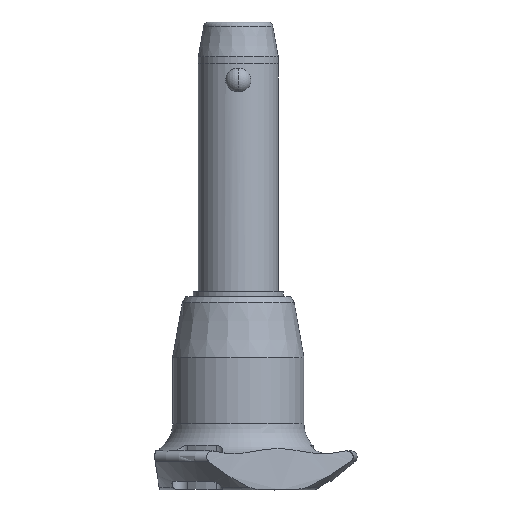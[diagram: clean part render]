
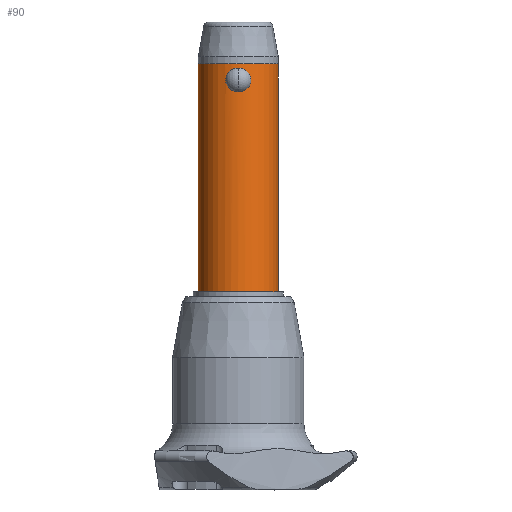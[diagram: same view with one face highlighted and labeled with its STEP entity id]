
A CAD part, front view. The second image highlights one B-rep face of the part: STEP entity #90.
In plain terms, the highlighted cylindrical face has radius 8 mm (diameter 16 mm), a partial arc.
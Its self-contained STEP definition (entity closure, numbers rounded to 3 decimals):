
#2 = CARTESIAN_POINT ( 'NONE',  ( -8., 0., -40. ) ) ;
#26 = VERTEX_POINT ( 'NONE', #342 ) ;
#75 = CARTESIAN_POINT ( 'NONE',  ( -8., 0., 5.6 ) ) ;
#90 = ADVANCED_FACE ( 'NONE', ( #1492, #1956 ), #115, .T. ) ;
#96 = CARTESIAN_POINT ( 'NONE',  ( 2.408, -7.629, 1.586 ) ) ;
#115 = CYLINDRICAL_SURFACE ( 'NONE', #312, 8. ) ;
#123 = CARTESIAN_POINT ( 'NONE',  ( 0., -8., 0. ) ) ;
#130 = DIRECTION ( 'NONE',  ( 1., 0., 0. ) ) ;
#134 = CARTESIAN_POINT ( 'NONE',  ( 2.41, -7.629, 3.184 ) ) ;
#148 = CARTESIAN_POINT ( 'NONE',  ( 2.528, -7.59, 2.058 ) ) ;
#150 = DIRECTION ( 'NONE',  ( 0., 0., 1. ) ) ;
#181 = CARTESIAN_POINT ( 'NONE',  ( -2.529, -7.59, 2.064 ) ) ;
#192 = CARTESIAN_POINT ( 'NONE',  ( -2.411, -7.628, 1.592 ) ) ;
#201 = CARTESIAN_POINT ( 'NONE',  ( -1.658, -7.827, 4.216 ) ) ;
#222 = CARTESIAN_POINT ( 'NONE',  ( 8., 0., -40. ) ) ;
#235 = LINE ( 'NONE', #1405, #1227 ) ;
#308 = DIRECTION ( 'NONE',  ( 1., 0., 0. ) ) ;
#312 = AXIS2_PLACEMENT_3D ( 'NONE', #1036, #356, #130 ) ;
#336 = ORIENTED_EDGE ( 'NONE', *, *, #779, .F. ) ;
#342 = CARTESIAN_POINT ( 'NONE',  ( 8., 0., 5.6 ) ) ;
#356 = DIRECTION ( 'NONE',  ( 0., 0., 1. ) ) ;
#369 = VERTEX_POINT ( 'NONE', #2 ) ;
#378 = CARTESIAN_POINT ( 'NONE',  ( 0.804, -7.961, 4.661 ) ) ;
#405 = CARTESIAN_POINT ( 'NONE',  ( -2.276, -7.67, 3.482 ) ) ;
#417 = CARTESIAN_POINT ( 'NONE',  ( -1.106, -7.925, 0.226 ) ) ;
#439 = CARTESIAN_POINT ( 'NONE',  ( -0.324, -8., 0. ) ) ;
#459 = VERTEX_POINT ( 'NONE', #912 ) ;
#460 = CARTESIAN_POINT ( 'NONE',  ( 0., -8., 4.775 ) ) ;
#469 = EDGE_LOOP ( 'NONE', ( #336, #2139 ) ) ;
#508 = ORIENTED_EDGE ( 'NONE', *, *, #2146, .F. ) ;
#587 = CARTESIAN_POINT ( 'NONE',  ( 1.252, -7.903, 0.296 ) ) ;
#604 = CARTESIAN_POINT ( 'NONE',  ( 2.211, -7.69, 3.626 ) ) ;
#626 = CARTESIAN_POINT ( 'NONE',  ( -1.107, -7.924, 4.548 ) ) ;
#745 = DIRECTION ( 'NONE',  ( 0., 0., -1. ) ) ;
#778 = CARTESIAN_POINT ( 'NONE',  ( 2.46, -7.613, 1.742 ) ) ;
#779 = EDGE_CURVE ( 'NONE', #459, #1721, #1654, .T. ) ;
#800 = CARTESIAN_POINT ( 'NONE',  ( 0., 0., 5.6 ) ) ;
#811 = CARTESIAN_POINT ( 'NONE',  ( 2.194, -7.694, 1.153 ) ) ;
#832 = DIRECTION ( 'NONE',  ( 0., 0., 1. ) ) ;
#865 = CARTESIAN_POINT ( 'NONE',  ( -0.652, -7.979, 0.058 ) ) ;
#912 = CARTESIAN_POINT ( 'NONE',  ( 0., -8., 4.775 ) ) ;
#970 = VERTEX_POINT ( 'NONE', #75 ) ;
#1036 = CARTESIAN_POINT ( 'NONE',  ( 0., 0., -40. ) ) ;
#1042 = CARTESIAN_POINT ( 'NONE',  ( 1.105, -7.925, 0.226 ) ) ;
#1093 = EDGE_CURVE ( 'NONE', #1881, #26, #2879, .T. ) ;
#1108 = CARTESIAN_POINT ( 'NONE',  ( 0., -8., 0. ) ) ;
#1150 = CARTESIAN_POINT ( 'NONE',  ( -1.659, -7.827, 0.559 ) ) ;
#1227 = VECTOR ( 'NONE', #1663, 1000. ) ;
#1277 = CARTESIAN_POINT ( 'NONE',  ( 2.529, -7.59, 2.71 ) ) ;
#1288 = CARTESIAN_POINT ( 'NONE',  ( 0.645, -7.976, 4.704 ) ) ;
#1315 = CARTESIAN_POINT ( 'NONE',  ( -2.529, -7.59, 2.716 ) ) ;
#1329 = CARTESIAN_POINT ( 'NONE',  ( -1.252, -7.903, 4.479 ) ) ;
#1339 = CARTESIAN_POINT ( 'NONE',  ( -2.211, -7.69, 1.148 ) ) ;
#1405 = CARTESIAN_POINT ( 'NONE',  ( -8., 0., -40. ) ) ;
#1454 = CARTESIAN_POINT ( 'NONE',  ( 1.66, -7.827, 4.215 ) ) ;
#1472 = CARTESIAN_POINT ( 'NONE',  ( 0.324, -8., 0. ) ) ;
#1492 = FACE_OUTER_BOUND ( 'NONE', #1658, .T. ) ;
#1498 = CARTESIAN_POINT ( 'NONE',  ( 2.547, -7.584, 2.549 ) ) ;
#1507 = ORIENTED_EDGE ( 'NONE', *, *, #2474, .F. ) ;
#1517 = CARTESIAN_POINT ( 'NONE',  ( 1.253, -7.903, 4.478 ) ) ;
#1654 = B_SPLINE_CURVE_WITH_KNOTS ( 'NONE', 3,
 ( #460, #2928, #2280, #2486, #1791, #626, #1329, #2014, #201, #1775, #2030, #2447, #405, #2463, #1832, #1315, #2475, #2229, #181, #2240, #192, #1339, #2732, #1150, #2954, #2913, #417, #865, #439, #1108 ),
 .UNSPECIFIED., .F., .F.,
 ( 4, 2, 2, 2, 2, 2, 2, 2, 2, 2, 2, 2, 2, 2, 4 ),
 ( 0., 0., 0.001, 0.001, 0.002, 0.002, 0.003, 0.003, 0.004, 0.004, 0.005, 0.006, 0.006, 0.007, 0.008 ),
 .UNSPECIFIED. ) ;
#1658 = EDGE_LOOP ( 'NONE', ( #508, #1507, #2925, #2781 ) ) ;
#1663 = DIRECTION ( 'NONE',  ( 0., 0., 1. ) ) ;
#1677 = CARTESIAN_POINT ( 'NONE',  ( 2.461, -7.612, 3.027 ) ) ;
#1721 = VERTEX_POINT ( 'NONE', #1749 ) ;
#1749 = CARTESIAN_POINT ( 'NONE',  ( 0., -8., 0. ) ) ;
#1775 = CARTESIAN_POINT ( 'NONE',  ( -1.896, -7.773, 4.001 ) ) ;
#1791 = CARTESIAN_POINT ( 'NONE',  ( -0.803, -7.961, 4.661 ) ) ;
#1832 = CARTESIAN_POINT ( 'NONE',  ( -2.459, -7.613, 3.036 ) ) ;
#1881 = VERTEX_POINT ( 'NONE', #222 ) ;
#1882 = CARTESIAN_POINT ( 'NONE',  ( 0., 0., -40. ) ) ;
#1917 = CARTESIAN_POINT ( 'NONE',  ( 2.275, -7.67, 1.291 ) ) ;
#1947 = CARTESIAN_POINT ( 'NONE',  ( 1.657, -7.827, 0.558 ) ) ;
#1956 = FACE_BOUND ( 'NONE', #469, .T. ) ;
#1974 = DIRECTION ( 'NONE',  ( 1., 0., 0. ) ) ;
#2014 = CARTESIAN_POINT ( 'NONE',  ( -1.527, -7.854, 4.313 ) ) ;
#2030 = CARTESIAN_POINT ( 'NONE',  ( -2.003, -7.746, 3.882 ) ) ;
#2038 = EDGE_CURVE ( 'NONE', #1721, #459, #2736, .T. ) ;
#2139 = ORIENTED_EDGE ( 'NONE', *, *, #2038, .F. ) ;
#2146 = EDGE_CURVE ( 'NONE', #369, #970, #235, .T. ) ;
#2173 = AXIS2_PLACEMENT_3D ( 'NONE', #1882, #745, #308 ) ;
#2188 = CARTESIAN_POINT ( 'NONE',  ( 2.004, -7.746, 0.894 ) ) ;
#2200 = CARTESIAN_POINT ( 'NONE',  ( 0.326, -7.995, 4.761 ) ) ;
#2217 = CIRCLE ( 'NONE', #2173, 8. ) ;
#2229 = CARTESIAN_POINT ( 'NONE',  ( -2.547, -7.584, 2.229 ) ) ;
#2240 = CARTESIAN_POINT ( 'NONE',  ( -2.461, -7.612, 1.746 ) ) ;
#2257 = AXIS2_PLACEMENT_3D ( 'NONE', #800, #150, #1974 ) ;
#2280 = CARTESIAN_POINT ( 'NONE',  ( -0.326, -7.995, 4.761 ) ) ;
#2374 = CARTESIAN_POINT ( 'NONE',  ( 8., 0., -40. ) ) ;
#2424 = CARTESIAN_POINT ( 'NONE',  ( 1.108, -7.924, 4.548 ) ) ;
#2447 = CARTESIAN_POINT ( 'NONE',  ( -2.193, -7.694, 3.623 ) ) ;
#2463 = CARTESIAN_POINT ( 'NONE',  ( -2.408, -7.629, 3.189 ) ) ;
#2474 = EDGE_CURVE ( 'NONE', #1881, #369, #2217, .T. ) ;
#2475 = CARTESIAN_POINT ( 'NONE',  ( -2.546, -7.584, 2.553 ) ) ;
#2486 = CARTESIAN_POINT ( 'NONE',  ( -0.645, -7.976, 4.704 ) ) ;
#2519 = CARTESIAN_POINT ( 'NONE',  ( 0.164, -8., 4.775 ) ) ;
#2556 = CIRCLE ( 'NONE', #2257, 8. ) ;
#2592 = CARTESIAN_POINT ( 'NONE',  ( 2.016, -7.746, 3.891 ) ) ;
#2609 = CARTESIAN_POINT ( 'NONE',  ( 1.529, -7.854, 4.312 ) ) ;
#2638 = CARTESIAN_POINT ( 'NONE',  ( 2.546, -7.584, 2.22 ) ) ;
#2652 = CARTESIAN_POINT ( 'NONE',  ( 1.529, -7.854, 0.463 ) ) ;
#2653 = VECTOR ( 'NONE', #832, 1000. ) ;
#2677 = EDGE_CURVE ( 'NONE', #970, #26, #2556, .T. ) ;
#2732 = CARTESIAN_POINT ( 'NONE',  ( -2.016, -7.746, 0.883 ) ) ;
#2736 = B_SPLINE_CURVE_WITH_KNOTS ( 'NONE', 3,
 ( #123, #1472, #2872, #1042, #587, #2652, #1947, #2860, #2188, #811, #1917, #96, #778, #148, #2638, #1498, #1277, #1677, #134, #604, #2592, #1454, #2609, #1517, #2424, #378, #1288, #2200, #2519, #2933 ),
 .UNSPECIFIED., .F., .F.,
 ( 4, 2, 2, 2, 2, 2, 2, 2, 2, 2, 2, 2, 2, 2, 4 ),
 ( 0.008, 0.009, 0.009, 0.01, 0.01, 0.011, 0.011, 0.012, 0.012, 0.013, 0.014, 0.014, 0.015, 0.015, 0.016 ),
 .UNSPECIFIED. ) ;
#2781 = ORIENTED_EDGE ( 'NONE', *, *, #2677, .F. ) ;
#2860 = CARTESIAN_POINT ( 'NONE',  ( 1.894, -7.773, 0.773 ) ) ;
#2872 = CARTESIAN_POINT ( 'NONE',  ( 0.652, -7.979, 0.058 ) ) ;
#2879 = LINE ( 'NONE', #2374, #2653 ) ;
#2913 = CARTESIAN_POINT ( 'NONE',  ( -1.254, -7.902, 0.297 ) ) ;
#2925 = ORIENTED_EDGE ( 'NONE', *, *, #1093, .T. ) ;
#2928 = CARTESIAN_POINT ( 'NONE',  ( -0.164, -8., 4.775 ) ) ;
#2933 = CARTESIAN_POINT ( 'NONE',  ( 0., -8., 4.775 ) ) ;
#2954 = CARTESIAN_POINT ( 'NONE',  ( -1.53, -7.854, 0.464 ) ) ;
